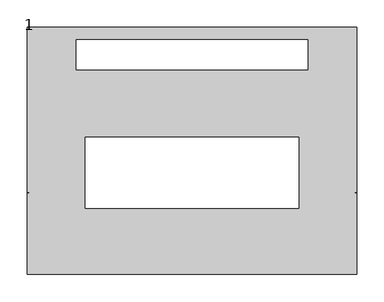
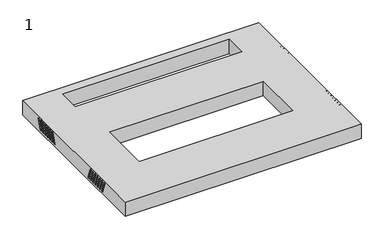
"""IFC4 building model written with IfcOpenShell, lengths in millimetres: proxy geometry, 1."""

from ifc_helpers import new_model, si_unit, frame, origin, place, context, project, spatial, polyline, circle_curve, source, transform, mapped, element, save
from ifc_brep_helpers import plane_surface, revolved_surface, advanced_brep


def proxy_1_876da3fd(model_context):
    return source(origin(), model_context, "Body", "AdvancedBrep", [
        advanced_brep(
        [(298.0, -135.8, 610.7479679), (298.0, -126.9074763, 586.3159597), (298.0, -123.1487058, 587.6840403), (298.0, -132.0412295, 612.1160484), (298.0, -125.8, 610.7479679), (298.0, -116.9074763, 586.3159597), (298.0, -113.1487058, 587.6840403), (298.0, -122.0412295, 612.1160484), (298.0, -115.8, 610.7479679), (298.0, -106.9074763, 586.3159597), (298.0, -103.1487058, 587.6840403), (298.0, -112.0412295, 612.1160484), (298.0, -105.8, 610.7479679), (298.0, -96.9074763, 586.3159597), (298.0, -93.1487058, 587.6840403), (298.0, -102.0412295, 612.1160484), (298.0, -95.8, 610.7479679), (298.0, -86.9074763, 586.3159597), (298.0, -83.1487058, 587.6840403), (298.0, -92.0412295, 612.1160484), (298.0, -85.8, 610.7479679), (298.0, -76.9074763, 586.3159597), (298.0, -73.1487058, 587.6840403), (298.0, -82.0412295, 612.1160484), (298.0, -75.8, 610.7479679), (298.0, -66.9074763, 586.3159597), (298.0, -63.1487058, 587.6840403), (298.0, -72.0412295, 612.1160484), (300.0, -132.0412295, 612.1160484), (300.0, -135.8, 610.7479679), (300.0, -123.1487058, 587.6840403), (300.0, -126.9074763, 586.3159597), (300.0, -122.0412295, 612.1160484), (300.0, -125.8, 610.7479679), (300.0, -113.1487058, 587.6840403), (300.0, -116.9074763, 586.3159597), (300.0, -112.0412295, 612.1160484), (300.0, -115.8, 610.7479679), (300.0, -103.1487058, 587.6840403), (300.0, -106.9074763, 586.3159597), (300.0, -102.0412295, 612.1160484), (300.0, -105.8, 610.7479679), (300.0, -93.1487058, 587.6840403), (300.0, -96.9074763, 586.3159597), (300.0, -92.0412295, 612.1160484), (300.0, -95.8, 610.7479679), (300.0, -83.1487058, 587.6840403), (300.0, -86.9074763, 586.3159597), (300.0, -82.0412295, 612.1160484), (300.0, -85.8, 610.7479679), (300.0, -73.1487058, 587.6840403), (300.0, -76.9074763, 586.3159597), (300.0, -72.0412295, 612.1160484), (300.0, -75.8, 610.7479679), (300.0, -63.1487058, 587.6840403), (300.0, -66.9074763, 586.3159597), (300.0, 225.0, 579.0), (300.0, -225.0, 579.0), (-300.0, -225.0, 579.0), (-300.0, 225.0, 579.0), (-211.0, 147.5, 579.0), (211.0, 147.5, 579.0), (211.0, 202.5, 579.0), (-211.0, 202.5, 579.0), (195.0, 25.0, 579.0), (-195.0, 25.0, 579.0), (-195.0, -105.0, 579.0), (195.0, -105.0, 579.0), (300.0, 225.0, 617.0), (-300.0, 225.0, 617.0), (-300.0, -225.0, 617.0), (300.0, -225.0, 617.0), (-211.0, 147.5, 617.0), (-211.0, 202.5, 617.0), (211.0, 202.5, 617.0), (211.0, 147.5, 617.0), (195.0, 25.0, 617.0), (195.0, -105.0, 617.0), (-195.0, -105.0, 617.0), (-195.0, 25.0, 617.0), (-300.0, -66.9074763, 586.3159597), (-300.0, -63.1487058, 587.6840403), (-300.0, -72.0412295, 612.1160484), (-300.0, -75.8, 610.7479679), (-300.0, -76.9074763, 586.3159597), (-300.0, -73.1487058, 587.6840403), (-300.0, -82.0412295, 612.1160484), (-300.0, -85.8, 610.7479679), (-300.0, -86.9074763, 586.3159597), (-300.0, -83.1487058, 587.6840403), (-300.0, -92.0412295, 612.1160484), (-300.0, -95.8, 610.7479679), (-300.0, -96.9074763, 586.3159597), (-300.0, -93.1487058, 587.6840403), (-300.0, -102.0412295, 612.1160484), (-300.0, -105.8, 610.7479679), (-300.0, -106.9074763, 586.3159597), (-300.0, -103.1487058, 587.6840403), (-300.0, -112.0412295, 612.1160484), (-300.0, -115.8, 610.7479679), (-300.0, -116.9074763, 586.3159597), (-300.0, -113.1487058, 587.6840403), (-300.0, -122.0412295, 612.1160484), (-300.0, -125.8, 610.7479679), (-300.0, -126.9074763, 586.3159597), (-300.0, -123.1487058, 587.6840403), (-300.0, -132.0412295, 612.1160484), (-300.0, -135.8, 610.7479679), (-300.0, 96.0, 610.7479679), (-300.0, 92.2412295, 612.1160484), (-300.0, 83.3487058, 587.6840403), (-300.0, 87.1074763, 586.3159597), (-300.0, 106.0, 610.7479679), (-300.0, 102.2412295, 612.1160484), (-300.0, 93.3487058, 587.6840403), (-300.0, 97.1074763, 586.3159597), (-300.0, 116.0, 610.7479679), (-300.0, 112.2412295, 612.1160484), (-300.0, 103.3487058, 587.6840403), (-300.0, 107.1074763, 586.3159597), (-300.0, 126.0, 610.7479679), (-300.0, 122.2412295, 612.1160484), (-300.0, 113.3487058, 587.6840403), (-300.0, 117.1074763, 586.3159597), (-300.0, 136.0, 610.7479679), (-300.0, 132.2412295, 612.1160484), (-300.0, 123.3487058, 587.6840403), (-300.0, 127.1074763, 586.3159597), (-300.0, 146.0, 610.7479679), (-300.0, 142.2412295, 612.1160484), (-300.0, 133.3487058, 587.6840403), (-300.0, 137.1074763, 586.3159597), (-300.0, 156.0, 610.7479679), (-300.0, 152.2412295, 612.1160484), (-300.0, 143.3487058, 587.6840403), (-300.0, 147.1074763, 586.3159597), (300.0, 152.2412295, 612.1160484), (300.0, 156.0, 610.7479679), (300.0, 147.1074763, 586.3159597), (300.0, 143.3487058, 587.6840403), (300.0, 142.2412295, 612.1160484), (300.0, 146.0, 610.7479679), (300.0, 137.1074763, 586.3159597), (300.0, 133.3487058, 587.6840403), (300.0, 132.2412295, 612.1160484), (300.0, 136.0, 610.7479679), (300.0, 127.1074763, 586.3159597), (300.0, 123.3487058, 587.6840403), (300.0, 122.2412295, 612.1160484), (300.0, 126.0, 610.7479679), (300.0, 117.1074763, 586.3159597), (300.0, 113.3487058, 587.6840403), (300.0, 112.2412295, 612.1160484), (300.0, 116.0, 610.7479679), (300.0, 107.1074763, 586.3159597), (300.0, 103.3487058, 587.6840403), (300.0, 102.2412295, 612.1160484), (300.0, 106.0, 610.7479679), (300.0, 97.1074763, 586.3159597), (300.0, 93.3487058, 587.6840403), (300.0, 92.2412295, 612.1160484), (300.0, 96.0, 610.7479679), (300.0, 87.1074763, 586.3159597), (300.0, 83.3487058, 587.6840403), (298.0, 156.0, 610.7479679), (298.0, 152.2412295, 612.1160484), (298.0, 143.3487058, 587.6840403), (298.0, 147.1074763, 586.3159597), (298.0, 146.0, 610.7479679), (298.0, 142.2412295, 612.1160484), (298.0, 133.3487058, 587.6840403), (298.0, 137.1074763, 586.3159597), (298.0, 136.0, 610.7479679), (298.0, 132.2412295, 612.1160484), (298.0, 123.3487058, 587.6840403), (298.0, 127.1074763, 586.3159597), (298.0, 126.0, 610.7479679), (298.0, 122.2412295, 612.1160484), (298.0, 113.3487058, 587.6840403), (298.0, 117.1074763, 586.3159597), (298.0, 116.0, 610.7479679), (298.0, 112.2412295, 612.1160484), (298.0, 103.3487058, 587.6840403), (298.0, 107.1074763, 586.3159597), (298.0, 106.0, 610.7479679), (298.0, 102.2412295, 612.1160484), (298.0, 93.3487058, 587.6840403), (298.0, 97.1074763, 586.3159597), (298.0, 96.0, 610.7479679), (298.0, 92.2412295, 612.1160484), (298.0, 83.3487058, 587.6840403), (298.0, 87.1074763, 586.3159597), (-298.0, -63.1487058, 587.6840403), (-298.0, -66.9074763, 586.3159597), (-298.0, -75.8, 610.7479679), (-298.0, -72.0412295, 612.1160484), (-298.0, -73.1487058, 587.6840403), (-298.0, -76.9074763, 586.3159597), (-298.0, -85.8, 610.7479679), (-298.0, -82.0412295, 612.1160484), (-298.0, -83.1487058, 587.6840403), (-298.0, -86.9074763, 586.3159597), (-298.0, -95.8, 610.7479679), (-298.0, -92.0412295, 612.1160484), (-298.0, -93.1487058, 587.6840403), (-298.0, -96.9074763, 586.3159597), (-298.0, -105.8, 610.7479679), (-298.0, -102.0412295, 612.1160484), (-298.0, -103.1487058, 587.6840403), (-298.0, -106.9074763, 586.3159597), (-298.0, -115.8, 610.7479679), (-298.0, -112.0412295, 612.1160484), (-298.0, -113.1487058, 587.6840403), (-298.0, -116.9074763, 586.3159597), (-298.0, -125.8, 610.7479679), (-298.0, -122.0412295, 612.1160484), (-298.0, -123.1487058, 587.6840403), (-298.0, -126.9074763, 586.3159597), (-298.0, -135.8, 610.7479679), (-298.0, -132.0412295, 612.1160484), (-298.0, 92.2412295, 612.1160484), (-298.0, 96.0, 610.7479679), (-298.0, 87.1074763, 586.3159597), (-298.0, 83.3487058, 587.6840403), (-298.0, 102.2412295, 612.1160484), (-298.0, 106.0, 610.7479679), (-298.0, 97.1074763, 586.3159597), (-298.0, 93.3487058, 587.6840403), (-298.0, 112.2412295, 612.1160484), (-298.0, 116.0, 610.7479679), (-298.0, 107.1074763, 586.3159597), (-298.0, 103.3487058, 587.6840403), (-298.0, 122.2412295, 612.1160484), (-298.0, 126.0, 610.7479679), (-298.0, 117.1074763, 586.3159597), (-298.0, 113.3487058, 587.6840403), (-298.0, 132.2412295, 612.1160484), (-298.0, 136.0, 610.7479679), (-298.0, 127.1074763, 586.3159597), (-298.0, 123.3487058, 587.6840403), (-298.0, 142.2412295, 612.1160484), (-298.0, 146.0, 610.7479679), (-298.0, 137.1074763, 586.3159597), (-298.0, 133.3487058, 587.6840403), (-298.0, 152.2412295, 612.1160484), (-298.0, 156.0, 610.7479679), (-298.0, 147.1074763, 586.3159597), (-298.0, 143.3487058, 587.6840403)],
        [
            (0, 1),
            (1, 2, circle_curve(frame((298.0, -125.028091, 587.0), z_axis=(1.0, 0.0, 0.0), x_axis=(0.0, -1.0, 0.0)), 2.0)),
            (2, 3),
            (3, 0, circle_curve(frame((298.0, -133.9206148, 611.4320081), z_axis=(1.0, 0.0, 0.0), x_axis=(0.0, -1.0, 0.0)), 2.0)),
            (4, 5),
            (5, 6, circle_curve(frame((298.0, -115.028091, 587.0), z_axis=(1.0, 0.0, 0.0), x_axis=(0.0, -1.0, 0.0)), 2.0)),
            (6, 7),
            (7, 4, circle_curve(frame((298.0, -123.9206148, 611.4320081), z_axis=(1.0, 0.0, 0.0), x_axis=(0.0, -1.0, 0.0)), 2.0)),
            (8, 9),
            (9, 10, circle_curve(frame((298.0, -105.028091, 587.0), z_axis=(1.0, 0.0, 0.0), x_axis=(0.0, -1.0, 0.0)), 2.0)),
            (10, 11),
            (11, 8, circle_curve(frame((298.0, -113.9206148, 611.4320081), z_axis=(1.0, 0.0, 0.0), x_axis=(0.0, -1.0, 0.0)), 2.0)),
            (12, 13),
            (13, 14, circle_curve(frame((298.0, -95.028091, 587.0), z_axis=(1.0, 0.0, 0.0), x_axis=(0.0, -1.0, 0.0)), 2.0)),
            (14, 15),
            (15, 12, circle_curve(frame((298.0, -103.9206148, 611.4320081), z_axis=(1.0, 0.0, 0.0), x_axis=(0.0, -1.0, 0.0)), 2.0)),
            (16, 17),
            (17, 18, circle_curve(frame((298.0, -85.028091, 587.0), z_axis=(1.0, 0.0, 0.0), x_axis=(0.0, -1.0, 0.0)), 2.0)),
            (18, 19),
            (19, 16, circle_curve(frame((298.0, -93.9206148, 611.4320081), z_axis=(1.0, 0.0, 0.0), x_axis=(0.0, -1.0, 0.0)), 2.0)),
            (20, 21),
            (21, 22, circle_curve(frame((298.0, -75.028091, 587.0), z_axis=(1.0, 0.0, 0.0), x_axis=(0.0, -1.0, 0.0)), 2.0)),
            (22, 23),
            (23, 20, circle_curve(frame((298.0, -83.9206148, 611.4320081), z_axis=(1.0, 0.0, 0.0), x_axis=(0.0, -1.0, 0.0)), 2.0)),
            (24, 25),
            (25, 26, circle_curve(frame((298.0, -65.028091, 587.0), z_axis=(1.0, 0.0, 0.0), x_axis=(0.0, -1.0, 0.0)), 2.0)),
            (26, 27),
            (27, 24, circle_curve(frame((298.0, -73.9206148, 611.4320081), z_axis=(1.0, 0.0, 0.0), x_axis=(0.0, -1.0, 0.0)), 2.0)),
            (3, 28),
            (28, 29, circle_curve(frame((300.0, -133.9206148, 611.4320081), z_axis=(1.0, 0.0, 0.0), x_axis=(0.0, -1.0, 0.0)), 2.0)),
            (29, 0),
            (2, 30),
            (30, 28),
            (1, 31),
            (31, 30, circle_curve(frame((300.0, -125.028091, 587.0), z_axis=(1.0, 0.0, 0.0), x_axis=(0.0, -1.0, 0.0)), 2.0)),
            (29, 31),
            (7, 32),
            (32, 33, circle_curve(frame((300.0, -123.9206148, 611.4320081), z_axis=(1.0, 0.0, 0.0), x_axis=(0.0, -1.0, 0.0)), 2.0)),
            (33, 4),
            (6, 34),
            (34, 32),
            (5, 35),
            (35, 34, circle_curve(frame((300.0, -115.028091, 587.0), z_axis=(1.0, 0.0, 0.0), x_axis=(0.0, -1.0, 0.0)), 2.0)),
            (33, 35),
            (11, 36),
            (36, 37, circle_curve(frame((300.0, -113.9206148, 611.4320081), z_axis=(1.0, 0.0, 0.0), x_axis=(0.0, -1.0, 0.0)), 2.0)),
            (37, 8),
            (10, 38),
            (38, 36),
            (9, 39),
            (39, 38, circle_curve(frame((300.0, -105.028091, 587.0), z_axis=(1.0, 0.0, 0.0), x_axis=(0.0, -1.0, 0.0)), 2.0)),
            (37, 39),
            (15, 40),
            (40, 41, circle_curve(frame((300.0, -103.9206148, 611.4320081), z_axis=(1.0, 0.0, 0.0), x_axis=(0.0, -1.0, 0.0)), 2.0)),
            (41, 12),
            (14, 42),
            (42, 40),
            (13, 43),
            (43, 42, circle_curve(frame((300.0, -95.028091, 587.0), z_axis=(1.0, 0.0, 0.0), x_axis=(0.0, -1.0, 0.0)), 2.0)),
            (41, 43),
            (19, 44),
            (44, 45, circle_curve(frame((300.0, -93.9206148, 611.4320081), z_axis=(1.0, 0.0, 0.0), x_axis=(0.0, -1.0, 0.0)), 2.0)),
            (45, 16),
            (18, 46),
            (46, 44),
            (17, 47),
            (47, 46, circle_curve(frame((300.0, -85.028091, 587.0), z_axis=(1.0, 0.0, 0.0), x_axis=(0.0, -1.0, 0.0)), 2.0)),
            (45, 47),
            (23, 48),
            (48, 49, circle_curve(frame((300.0, -83.9206148, 611.4320081), z_axis=(1.0, 0.0, 0.0), x_axis=(0.0, -1.0, 0.0)), 2.0)),
            (49, 20),
            (22, 50),
            (50, 48),
            (21, 51),
            (51, 50, circle_curve(frame((300.0, -75.028091, 587.0), z_axis=(1.0, 0.0, 0.0), x_axis=(0.0, -1.0, 0.0)), 2.0)),
            (49, 51),
            (27, 52),
            (52, 53, circle_curve(frame((300.0, -73.9206148, 611.4320081), z_axis=(1.0, 0.0, 0.0), x_axis=(0.0, -1.0, 0.0)), 2.0)),
            (53, 24),
            (26, 54),
            (54, 52),
            (25, 55),
            (55, 54, circle_curve(frame((300.0, -65.028091, 587.0), z_axis=(1.0, 0.0, 0.0), x_axis=(0.0, -1.0, 0.0)), 2.0)),
            (53, 55),
            (56, 57),
            (57, 58),
            (58, 59),
            (59, 56),
            (60, 61),
            (61, 62),
            (62, 63),
            (63, 60),
            (64, 65),
            (65, 66),
            (66, 67),
            (67, 64),
            (68, 69),
            (69, 70),
            (70, 71),
            (71, 68),
            (72, 73),
            (73, 74),
            (74, 75),
            (75, 72),
            (76, 77),
            (77, 78),
            (78, 79),
            (79, 76),
            (59, 69),
            (68, 56),
            (58, 70),
            (80, 81, circle_curve(frame((-300.0, -65.028091, 587.0), z_axis=(1.0, 0.0, 0.0), x_axis=(0.0, 1.0, 0.0)), 2.0)),
            (81, 82),
            (82, 83, circle_curve(frame((-300.0, -73.9206148, 611.4320081), z_axis=(1.0, 0.0, 0.0), x_axis=(0.0, 1.0, 0.0)), 2.0)),
            (83, 80),
            (84, 85, circle_curve(frame((-300.0, -75.028091, 587.0), z_axis=(1.0, 0.0, 0.0), x_axis=(0.0, 1.0, 0.0)), 2.0)),
            (85, 86),
            (86, 87, circle_curve(frame((-300.0, -83.9206148, 611.4320081), z_axis=(1.0, 0.0, 0.0), x_axis=(0.0, 1.0, 0.0)), 2.0)),
            (87, 84),
            (88, 89, circle_curve(frame((-300.0, -85.028091, 587.0), z_axis=(1.0, 0.0, 0.0), x_axis=(0.0, 1.0, 0.0)), 2.0)),
            (89, 90),
            (90, 91, circle_curve(frame((-300.0, -93.9206148, 611.4320081), z_axis=(1.0, 0.0, 0.0), x_axis=(0.0, 1.0, 0.0)), 2.0)),
            (91, 88),
            (92, 93, circle_curve(frame((-300.0, -95.028091, 587.0), z_axis=(1.0, 0.0, 0.0), x_axis=(0.0, 1.0, 0.0)), 2.0)),
            (93, 94),
            (94, 95, circle_curve(frame((-300.0, -103.9206148, 611.4320081), z_axis=(1.0, 0.0, 0.0), x_axis=(0.0, 1.0, 0.0)), 2.0)),
            (95, 92),
            (96, 97, circle_curve(frame((-300.0, -105.028091, 587.0), z_axis=(1.0, 0.0, 0.0), x_axis=(0.0, 1.0, 0.0)), 2.0)),
            (97, 98),
            (98, 99, circle_curve(frame((-300.0, -113.9206148, 611.4320081), z_axis=(1.0, 0.0, 0.0), x_axis=(0.0, 1.0, 0.0)), 2.0)),
            (99, 96),
            (100, 101, circle_curve(frame((-300.0, -115.028091, 587.0), z_axis=(1.0, 0.0, 0.0), x_axis=(0.0, 1.0, 0.0)), 2.0)),
            (101, 102),
            (102, 103, circle_curve(frame((-300.0, -123.9206148, 611.4320081), z_axis=(1.0, 0.0, 0.0), x_axis=(0.0, 1.0, 0.0)), 2.0)),
            (103, 100),
            (104, 105, circle_curve(frame((-300.0, -125.028091, 587.0), z_axis=(1.0, 0.0, 0.0), x_axis=(0.0, 1.0, 0.0)), 2.0)),
            (105, 106),
            (106, 107, circle_curve(frame((-300.0, -133.9206148, 611.4320081), z_axis=(1.0, 0.0, 0.0), x_axis=(0.0, 1.0, 0.0)), 2.0)),
            (107, 104),
            (108, 109, circle_curve(frame((-300.0, 94.1206148, 611.4320081), z_axis=(1.0, 0.0, 0.0), x_axis=(0.0, 1.0, 0.0)), 2.0)),
            (109, 110),
            (110, 111, circle_curve(frame((-300.0, 85.228091, 587.0), z_axis=(1.0, 0.0, 0.0), x_axis=(0.0, 1.0, 0.0)), 2.0)),
            (111, 108),
            (112, 113, circle_curve(frame((-300.0, 104.1206148, 611.4320081), z_axis=(1.0, 0.0, 0.0), x_axis=(0.0, 1.0, 0.0)), 2.0)),
            (113, 114),
            (114, 115, circle_curve(frame((-300.0, 95.228091, 587.0), z_axis=(1.0, 0.0, 0.0), x_axis=(0.0, 1.0, 0.0)), 2.0)),
            (115, 112),
            (116, 117, circle_curve(frame((-300.0, 114.1206148, 611.4320081), z_axis=(1.0, 0.0, 0.0), x_axis=(0.0, 1.0, 0.0)), 2.0)),
            (117, 118),
            (118, 119, circle_curve(frame((-300.0, 105.228091, 587.0), z_axis=(1.0, 0.0, 0.0), x_axis=(0.0, 1.0, 0.0)), 2.0)),
            (119, 116),
            (120, 121, circle_curve(frame((-300.0, 124.1206148, 611.4320081), z_axis=(1.0, 0.0, 0.0), x_axis=(0.0, 1.0, 0.0)), 2.0)),
            (121, 122),
            (122, 123, circle_curve(frame((-300.0, 115.228091, 587.0), z_axis=(1.0, 0.0, 0.0), x_axis=(0.0, 1.0, 0.0)), 2.0)),
            (123, 120),
            (124, 125, circle_curve(frame((-300.0, 134.1206148, 611.4320081), z_axis=(1.0, 0.0, 0.0), x_axis=(0.0, 1.0, 0.0)), 2.0)),
            (125, 126),
            (126, 127, circle_curve(frame((-300.0, 125.228091, 587.0), z_axis=(1.0, 0.0, 0.0), x_axis=(0.0, 1.0, 0.0)), 2.0)),
            (127, 124),
            (128, 129, circle_curve(frame((-300.0, 144.1206148, 611.4320081), z_axis=(1.0, 0.0, 0.0), x_axis=(0.0, 1.0, 0.0)), 2.0)),
            (129, 130),
            (130, 131, circle_curve(frame((-300.0, 135.228091, 587.0), z_axis=(1.0, 0.0, 0.0), x_axis=(0.0, 1.0, 0.0)), 2.0)),
            (131, 128),
            (132, 133, circle_curve(frame((-300.0, 154.1206148, 611.4320081), z_axis=(1.0, 0.0, 0.0), x_axis=(0.0, 1.0, 0.0)), 2.0)),
            (133, 134),
            (134, 135, circle_curve(frame((-300.0, 145.228091, 587.0), z_axis=(1.0, 0.0, 0.0), x_axis=(0.0, 1.0, 0.0)), 2.0)),
            (135, 132),
            (57, 71),
            (136, 137, circle_curve(frame((300.0, 154.1206148, 611.4320081), z_axis=(-1.0, 0.0, 0.0), x_axis=(0.0, 1.0, 0.0)), 2.0)),
            (137, 138),
            (138, 139, circle_curve(frame((300.0, 145.228091, 587.0), z_axis=(-1.0, 0.0, 0.0), x_axis=(0.0, 1.0, 0.0)), 2.0)),
            (139, 136),
            (140, 141, circle_curve(frame((300.0, 144.1206148, 611.4320081), z_axis=(-1.0, 0.0, 0.0), x_axis=(0.0, 1.0, 0.0)), 2.0)),
            (141, 142),
            (142, 143, circle_curve(frame((300.0, 135.228091, 587.0), z_axis=(-1.0, 0.0, 0.0), x_axis=(0.0, 1.0, 0.0)), 2.0)),
            (143, 140),
            (144, 145, circle_curve(frame((300.0, 134.1206148, 611.4320081), z_axis=(-1.0, 0.0, 0.0), x_axis=(0.0, 1.0, 0.0)), 2.0)),
            (145, 146),
            (146, 147, circle_curve(frame((300.0, 125.228091, 587.0), z_axis=(-1.0, 0.0, 0.0), x_axis=(0.0, 1.0, 0.0)), 2.0)),
            (147, 144),
            (148, 149, circle_curve(frame((300.0, 124.1206148, 611.4320081), z_axis=(-1.0, 0.0, 0.0), x_axis=(0.0, 1.0, 0.0)), 2.0)),
            (149, 150),
            (150, 151, circle_curve(frame((300.0, 115.228091, 587.0), z_axis=(-1.0, 0.0, 0.0), x_axis=(0.0, 1.0, 0.0)), 2.0)),
            (151, 148),
            (152, 153, circle_curve(frame((300.0, 114.1206148, 611.4320081), z_axis=(-1.0, 0.0, 0.0), x_axis=(0.0, 1.0, 0.0)), 2.0)),
            (153, 154),
            (154, 155, circle_curve(frame((300.0, 105.228091, 587.0), z_axis=(-1.0, 0.0, 0.0), x_axis=(0.0, 1.0, 0.0)), 2.0)),
            (155, 152),
            (156, 157, circle_curve(frame((300.0, 104.1206148, 611.4320081), z_axis=(-1.0, 0.0, 0.0), x_axis=(0.0, 1.0, 0.0)), 2.0)),
            (157, 158),
            (158, 159, circle_curve(frame((300.0, 95.228091, 587.0), z_axis=(-1.0, 0.0, 0.0), x_axis=(0.0, 1.0, 0.0)), 2.0)),
            (159, 156),
            (160, 161, circle_curve(frame((300.0, 94.1206148, 611.4320081), z_axis=(-1.0, 0.0, 0.0), x_axis=(0.0, 1.0, 0.0)), 2.0)),
            (161, 162),
            (162, 163, circle_curve(frame((300.0, 85.228091, 587.0), z_axis=(-1.0, 0.0, 0.0), x_axis=(0.0, 1.0, 0.0)), 2.0)),
            (163, 160),
            (63, 73),
            (72, 60),
            (62, 74),
            (61, 75),
            (67, 77),
            (76, 64),
            (66, 78),
            (65, 79),
            (164, 165, circle_curve(frame((298.0, 154.1206148, 611.4320081), z_axis=(1.0, 0.0, 0.0), x_axis=(0.0, 1.0, 0.0)), 2.0)),
            (165, 166),
            (166, 167, circle_curve(frame((298.0, 145.228091, 587.0), z_axis=(1.0, 0.0, 0.0), x_axis=(0.0, 1.0, 0.0)), 2.0)),
            (167, 164),
            (168, 169, circle_curve(frame((298.0, 144.1206148, 611.4320081), z_axis=(1.0, 0.0, 0.0), x_axis=(0.0, 1.0, 0.0)), 2.0)),
            (169, 170),
            (170, 171, circle_curve(frame((298.0, 135.228091, 587.0), z_axis=(1.0, 0.0, 0.0), x_axis=(0.0, 1.0, 0.0)), 2.0)),
            (171, 168),
            (172, 173, circle_curve(frame((298.0, 134.1206148, 611.4320081), z_axis=(1.0, 0.0, 0.0), x_axis=(0.0, 1.0, 0.0)), 2.0)),
            (173, 174),
            (174, 175, circle_curve(frame((298.0, 125.228091, 587.0), z_axis=(1.0, 0.0, 0.0), x_axis=(0.0, 1.0, 0.0)), 2.0)),
            (175, 172),
            (176, 177, circle_curve(frame((298.0, 124.1206148, 611.4320081), z_axis=(1.0, 0.0, 0.0), x_axis=(0.0, 1.0, 0.0)), 2.0)),
            (177, 178),
            (178, 179, circle_curve(frame((298.0, 115.228091, 587.0), z_axis=(1.0, 0.0, 0.0), x_axis=(0.0, 1.0, 0.0)), 2.0)),
            (179, 176),
            (180, 181, circle_curve(frame((298.0, 114.1206148, 611.4320081), z_axis=(1.0, 0.0, 0.0), x_axis=(0.0, 1.0, 0.0)), 2.0)),
            (181, 182),
            (182, 183, circle_curve(frame((298.0, 105.228091, 587.0), z_axis=(1.0, 0.0, 0.0), x_axis=(0.0, 1.0, 0.0)), 2.0)),
            (183, 180),
            (184, 185, circle_curve(frame((298.0, 104.1206148, 611.4320081), z_axis=(1.0, 0.0, 0.0), x_axis=(0.0, 1.0, 0.0)), 2.0)),
            (185, 186),
            (186, 187, circle_curve(frame((298.0, 95.228091, 587.0), z_axis=(1.0, 0.0, 0.0), x_axis=(0.0, 1.0, 0.0)), 2.0)),
            (187, 184),
            (188, 189, circle_curve(frame((298.0, 94.1206148, 611.4320081), z_axis=(1.0, 0.0, 0.0), x_axis=(0.0, 1.0, 0.0)), 2.0)),
            (189, 190),
            (190, 191, circle_curve(frame((298.0, 85.228091, 587.0), z_axis=(1.0, 0.0, 0.0), x_axis=(0.0, 1.0, 0.0)), 2.0)),
            (191, 188),
            (164, 137),
            (136, 165),
            (139, 166),
            (138, 167),
            (168, 141),
            (140, 169),
            (143, 170),
            (142, 171),
            (172, 145),
            (144, 173),
            (147, 174),
            (146, 175),
            (176, 149),
            (148, 177),
            (151, 178),
            (150, 179),
            (180, 153),
            (152, 181),
            (155, 182),
            (154, 183),
            (184, 157),
            (156, 185),
            (159, 186),
            (158, 187),
            (188, 161),
            (160, 189),
            (163, 190),
            (162, 191),
            (192, 193, circle_curve(frame((-298.0, -65.028091, 587.0), z_axis=(-1.0, 0.0, 0.0), x_axis=(0.0, 1.0, 0.0)), 2.0)),
            (193, 194),
            (194, 195, circle_curve(frame((-298.0, -73.9206148, 611.4320081), z_axis=(-1.0, 0.0, 0.0), x_axis=(0.0, 1.0, 0.0)), 2.0)),
            (195, 192),
            (196, 197, circle_curve(frame((-298.0, -75.028091, 587.0), z_axis=(-1.0, 0.0, 0.0), x_axis=(0.0, 1.0, 0.0)), 2.0)),
            (197, 198),
            (198, 199, circle_curve(frame((-298.0, -83.9206148, 611.4320081), z_axis=(-1.0, 0.0, 0.0), x_axis=(0.0, 1.0, 0.0)), 2.0)),
            (199, 196),
            (200, 201, circle_curve(frame((-298.0, -85.028091, 587.0), z_axis=(-1.0, 0.0, 0.0), x_axis=(0.0, 1.0, 0.0)), 2.0)),
            (201, 202),
            (202, 203, circle_curve(frame((-298.0, -93.9206148, 611.4320081), z_axis=(-1.0, 0.0, 0.0), x_axis=(0.0, 1.0, 0.0)), 2.0)),
            (203, 200),
            (204, 205, circle_curve(frame((-298.0, -95.028091, 587.0), z_axis=(-1.0, 0.0, 0.0), x_axis=(0.0, 1.0, 0.0)), 2.0)),
            (205, 206),
            (206, 207, circle_curve(frame((-298.0, -103.9206148, 611.4320081), z_axis=(-1.0, 0.0, 0.0), x_axis=(0.0, 1.0, 0.0)), 2.0)),
            (207, 204),
            (208, 209, circle_curve(frame((-298.0, -105.028091, 587.0), z_axis=(-1.0, 0.0, 0.0), x_axis=(0.0, 1.0, 0.0)), 2.0)),
            (209, 210),
            (210, 211, circle_curve(frame((-298.0, -113.9206148, 611.4320081), z_axis=(-1.0, 0.0, 0.0), x_axis=(0.0, 1.0, 0.0)), 2.0)),
            (211, 208),
            (212, 213, circle_curve(frame((-298.0, -115.028091, 587.0), z_axis=(-1.0, 0.0, 0.0), x_axis=(0.0, 1.0, 0.0)), 2.0)),
            (213, 214),
            (214, 215, circle_curve(frame((-298.0, -123.9206148, 611.4320081), z_axis=(-1.0, 0.0, 0.0), x_axis=(0.0, 1.0, 0.0)), 2.0)),
            (215, 212),
            (216, 217, circle_curve(frame((-298.0, -125.028091, 587.0), z_axis=(-1.0, 0.0, 0.0), x_axis=(0.0, 1.0, 0.0)), 2.0)),
            (217, 218),
            (218, 219, circle_curve(frame((-298.0, -133.9206148, 611.4320081), z_axis=(-1.0, 0.0, 0.0), x_axis=(0.0, 1.0, 0.0)), 2.0)),
            (219, 216),
            (192, 81),
            (80, 193),
            (83, 194),
            (82, 195),
            (196, 85),
            (84, 197),
            (87, 198),
            (86, 199),
            (200, 89),
            (88, 201),
            (91, 202),
            (90, 203),
            (204, 93),
            (92, 205),
            (95, 206),
            (94, 207),
            (208, 97),
            (96, 209),
            (99, 210),
            (98, 211),
            (212, 101),
            (100, 213),
            (103, 214),
            (102, 215),
            (216, 105),
            (104, 217),
            (107, 218),
            (106, 219),
            (220, 221, circle_curve(frame((-298.0, 94.1206148, 611.4320081), z_axis=(-1.0, 0.0, 0.0), x_axis=(0.0, 1.0, 0.0)), 2.0)),
            (221, 222),
            (222, 223, circle_curve(frame((-298.0, 85.228091, 587.0), z_axis=(-1.0, 0.0, 0.0), x_axis=(0.0, 1.0, 0.0)), 2.0)),
            (223, 220),
            (224, 225, circle_curve(frame((-298.0, 104.1206148, 611.4320081), z_axis=(-1.0, 0.0, 0.0), x_axis=(0.0, 1.0, 0.0)), 2.0)),
            (225, 226),
            (226, 227, circle_curve(frame((-298.0, 95.228091, 587.0), z_axis=(-1.0, 0.0, 0.0), x_axis=(0.0, 1.0, 0.0)), 2.0)),
            (227, 224),
            (228, 229, circle_curve(frame((-298.0, 114.1206148, 611.4320081), z_axis=(-1.0, 0.0, 0.0), x_axis=(0.0, 1.0, 0.0)), 2.0)),
            (229, 230),
            (230, 231, circle_curve(frame((-298.0, 105.228091, 587.0), z_axis=(-1.0, 0.0, 0.0), x_axis=(0.0, 1.0, 0.0)), 2.0)),
            (231, 228),
            (232, 233, circle_curve(frame((-298.0, 124.1206148, 611.4320081), z_axis=(-1.0, 0.0, 0.0), x_axis=(0.0, 1.0, 0.0)), 2.0)),
            (233, 234),
            (234, 235, circle_curve(frame((-298.0, 115.228091, 587.0), z_axis=(-1.0, 0.0, 0.0), x_axis=(0.0, 1.0, 0.0)), 2.0)),
            (235, 232),
            (236, 237, circle_curve(frame((-298.0, 134.1206148, 611.4320081), z_axis=(-1.0, 0.0, 0.0), x_axis=(0.0, 1.0, 0.0)), 2.0)),
            (237, 238),
            (238, 239, circle_curve(frame((-298.0, 125.228091, 587.0), z_axis=(-1.0, 0.0, 0.0), x_axis=(0.0, 1.0, 0.0)), 2.0)),
            (239, 236),
            (240, 241, circle_curve(frame((-298.0, 144.1206148, 611.4320081), z_axis=(-1.0, 0.0, 0.0), x_axis=(0.0, 1.0, 0.0)), 2.0)),
            (241, 242),
            (242, 243, circle_curve(frame((-298.0, 135.228091, 587.0), z_axis=(-1.0, 0.0, 0.0), x_axis=(0.0, 1.0, 0.0)), 2.0)),
            (243, 240),
            (244, 245, circle_curve(frame((-298.0, 154.1206148, 611.4320081), z_axis=(-1.0, 0.0, 0.0), x_axis=(0.0, 1.0, 0.0)), 2.0)),
            (245, 246),
            (246, 247, circle_curve(frame((-298.0, 145.228091, 587.0), z_axis=(-1.0, 0.0, 0.0), x_axis=(0.0, 1.0, 0.0)), 2.0)),
            (247, 244),
            (220, 109),
            (108, 221),
            (111, 222),
            (110, 223),
            (224, 113),
            (112, 225),
            (115, 226),
            (114, 227),
            (228, 117),
            (116, 229),
            (119, 230),
            (118, 231),
            (232, 121),
            (120, 233),
            (123, 234),
            (122, 235),
            (236, 125),
            (124, 237),
            (127, 238),
            (126, 239),
            (240, 129),
            (128, 241),
            (131, 242),
            (130, 243),
            (244, 133),
            (132, 245),
            (135, 246),
            (134, 247),
        ],
        [
            plane_surface(frame((298.0, -126.9074763, 586.3159597), z_axis=(1.0, 0.0, 0.0), x_axis=(0.0, -0.3420201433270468, 0.9396926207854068))),
            revolved_surface(polyline([(300.0, -135.9206148, 611.4320081), (298.0, -135.9206148, 611.4320081)]), (298.0, -133.9206148, 611.4320081), (1.0, 0.0, 0.0)),
            plane_surface(frame((300.0, -123.1487058, 587.6840403), z_axis=(0.0, -0.9396926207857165, -0.342020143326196), x_axis=(-1.0, 0.0, 0.0))),
            revolved_surface(polyline([(300.0, -127.028091, 587.0), (298.0, -127.028091, 587.0)]), (298.0, -125.028091, 587.0), (1.0, 0.0, 0.0)),
            plane_surface(frame((300.0, -135.8, 610.7479679), z_axis=(0.0, 0.9396926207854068, 0.3420201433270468), x_axis=(-1.0, 0.0, 0.0))),
            revolved_surface(polyline([(300.0, -125.9206148, 611.4320081), (298.0, -125.9206148, 611.4320081)]), (300.0, -123.9206148, 611.4320081), (1.0, 0.0, 0.0)),
            plane_surface(frame((300.0, -113.1487058, 587.6840403), z_axis=(0.0, -0.9396926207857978, -0.3420201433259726), x_axis=(-1.0, 0.0, 0.0))),
            revolved_surface(polyline([(300.0, -117.028091, 587.0), (298.0, -117.028091, 587.0)]), (300.0, -115.028091, 587.0), (1.0, 0.0, 0.0)),
            plane_surface(frame((300.0, -125.8, 610.7479679), z_axis=(0.0, 0.9396926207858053, 0.34202014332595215), x_axis=(-1.0, 0.0, 0.0))),
            revolved_surface(polyline([(300.0, -115.9206148, 611.4320081), (298.0, -115.9206148, 611.4320081)]), (300.0, -113.9206148, 611.4320081), (1.0, 0.0, 0.0)),
            plane_surface(frame((300.0, -103.1487058, 587.6840403), z_axis=(0.0, -0.9396926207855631, -0.34202014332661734), x_axis=(-1.0, 0.0, 0.0))),
            revolved_surface(polyline([(300.0, -107.028091, 587.0), (298.0, -107.028091, 587.0)]), (300.0, -105.028091, 587.0), (1.0, 0.0, 0.0)),
            plane_surface(frame((300.0, -115.8, 610.7479679), z_axis=(0.0, 0.9396926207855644, 0.34202014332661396), x_axis=(-1.0, 0.0, 0.0))),
            revolved_surface(polyline([(300.0, -105.9206148, 611.4320081), (298.0, -105.9206148, 611.4320081)]), (300.0, -103.9206148, 611.4320081), (1.0, 0.0, 0.0)),
            plane_surface(frame((300.0, -93.1487058, 587.6840403), z_axis=(0.0, -0.9396926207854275, -0.34202014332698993), x_axis=(-1.0, 0.0, 0.0))),
            revolved_surface(polyline([(300.0, -97.028091, 587.0), (298.0, -97.028091, 587.0)]), (300.0, -95.028091, 587.0), (1.0, 0.0, 0.0)),
            plane_surface(frame((300.0, -105.8, 610.7479679), z_axis=(0.0, 0.9396926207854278, 0.34202014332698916), x_axis=(-1.0, 0.0, 0.0))),
            revolved_surface(polyline([(300.0, -95.9206148, 611.4320081), (298.0, -95.9206148, 611.4320081)]), (300.0, -93.9206148, 611.4320081), (1.0, 0.0, 0.0)),
            plane_surface(frame((300.0, -83.1487058, 587.6840403), z_axis=(0.0, -0.9396926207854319, -0.3420201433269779), x_axis=(-1.0, 0.0, 0.0))),
            revolved_surface(polyline([(300.0, -87.028091, 587.0), (298.0, -87.028091, 587.0)]), (300.0, -85.028091, 587.0), (1.0, 0.0, 0.0)),
            plane_surface(frame((300.0, -95.8, 610.7479679), z_axis=(0.0, 0.9396926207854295, 0.3420201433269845), x_axis=(-1.0, 0.0, 0.0))),
            revolved_surface(polyline([(300.0, -85.9206148, 611.4320081), (298.0, -85.9206148, 611.4320081)]), (300.0, -83.9206148, 611.4320081), (1.0, 0.0, 0.0)),
            plane_surface(frame((300.0, -73.1487058, 587.6840403), z_axis=(0.0, -0.9396926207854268, -0.342020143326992), x_axis=(-1.0, 0.0, 0.0))),
            revolved_surface(polyline([(300.0, -77.028091, 587.0), (298.0, -77.028091, 587.0)]), (300.0, -75.028091, 587.0), (1.0, 0.0, 0.0)),
            plane_surface(frame((300.0, -85.8, 610.7479679), z_axis=(0.0, 0.9396926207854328, 0.3420201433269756), x_axis=(-1.0, 0.0, 0.0))),
            revolved_surface(polyline([(300.0, -75.9206148, 611.4320081), (298.0, -75.9206148, 611.4320081)]), (300.0, -73.9206148, 611.4320081), (1.0, 0.0, 0.0)),
            plane_surface(frame((300.0, -63.1487058, 587.6840403), z_axis=(0.0, -0.9396926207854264, -0.3420201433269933), x_axis=(-1.0, 0.0, 0.0))),
            revolved_surface(polyline([(300.0, -67.028091, 587.0), (298.0, -67.028091, 587.0)]), (300.0, -65.028091, 587.0), (1.0, 0.0, 0.0)),
            plane_surface(frame((300.0, -75.8, 610.7479679), z_axis=(0.0, 0.9396926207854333, 0.342020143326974), x_axis=(-1.0, 0.0, 0.0))),
            plane_surface(frame((-300.0, 225.0, 579.0), z_axis=(0.0, 0.0, -1.0), x_axis=(1.0, 0.0, 0.0))),
            plane_surface(frame((-300.0, 225.0, 617.0), z_axis=(0.0, 0.0, 1.0), x_axis=(-1.0, 0.0, 0.0))),
            plane_surface(frame((300.0, 225.0, 617.0), z_axis=(0.0, 1.0, 0.0), x_axis=(0.0, 0.0, -1.0))),
            plane_surface(frame((-300.0, 225.0, 617.0), z_axis=(-1.0, 0.0, 0.0), x_axis=(0.0, 0.0, -1.0))),
            plane_surface(frame((-300.0, -225.0, 617.0), z_axis=(0.0, -1.0, 0.0), x_axis=(0.0, 0.0, -1.0))),
            plane_surface(frame((300.0, -225.0, 617.0), z_axis=(1.0, 0.0, 0.0), x_axis=(0.0, 0.0, -1.0))),
            plane_surface(frame((-211.0, 147.5, 617.0), z_axis=(1.0, 0.0, 0.0), x_axis=(0.0, 0.0, -1.0))),
            plane_surface(frame((-211.0, 202.5, 617.0), z_axis=(0.0, -1.0, 0.0), x_axis=(0.0, 0.0, -1.0))),
            plane_surface(frame((211.0, 202.5, 617.0), z_axis=(-1.0, 0.0, 0.0), x_axis=(0.0, 0.0, -1.0))),
            plane_surface(frame((211.0, 147.5, 617.0), z_axis=(0.0, 1.0, 0.0), x_axis=(0.0, 0.0, -1.0))),
            plane_surface(frame((195.0, 25.0, 617.0), z_axis=(-1.0, 0.0, 0.0), x_axis=(0.0, 0.0, -1.0))),
            plane_surface(frame((195.0, -105.0, 617.0), z_axis=(0.0, 1.0, 0.0), x_axis=(0.0, 0.0, -1.0))),
            plane_surface(frame((-195.0, -105.0, 617.0), z_axis=(1.0, 0.0, 0.0), x_axis=(0.0, 0.0, -1.0))),
            plane_surface(frame((-195.0, 25.0, 617.0), z_axis=(0.0, -1.0, 0.0), x_axis=(0.0, 0.0, -1.0))),
            plane_surface(frame((298.0, 156.1206148, 611.4320081), z_axis=(1.0, 0.0, 0.0), x_axis=(0.0, 0.0, -1.0))),
            revolved_surface(polyline([(300.0, 156.1206148, 611.4320081), (298.0, 156.1206148, 611.4320081)]), (298.0, 154.1206148, 611.4320081), (1.0, 0.0, 0.0)),
            plane_surface(frame((300.0, 152.2412295, 612.1160484), z_axis=(0.0, 0.9396926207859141, -0.34202014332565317), x_axis=(-1.0, 0.0, 0.0))),
            revolved_surface(polyline([(300.0, 147.228091, 587.0), (298.0, 147.228091, 587.0)]), (298.0, 145.228091, 587.0), (1.0, 0.0, 0.0)),
            plane_surface(frame((300.0, 147.1074763, 586.3159597), z_axis=(0.0, -0.9396926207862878, 0.34202014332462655), x_axis=(-1.0, 0.0, 0.0))),
            revolved_surface(polyline([(300.0, 146.1206148, 611.4320081), (298.0, 146.1206148, 611.4320081)]), (300.0, 144.1206148, 611.4320081), (1.0, 0.0, 0.0)),
            plane_surface(frame((300.0, 142.2412295, 612.1160484), z_axis=(0.0, 0.9396926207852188, -0.34202014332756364), x_axis=(-1.0, 0.0, 0.0))),
            revolved_surface(polyline([(300.0, 137.228091, 587.0), (298.0, 137.228091, 587.0)]), (300.0, 135.228091, 587.0), (1.0, 0.0, 0.0)),
            plane_surface(frame((300.0, 137.1074763, 586.3159597), z_axis=(0.0, -0.939692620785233, 0.3420201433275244), x_axis=(-1.0, 0.0, 0.0))),
            revolved_surface(polyline([(300.0, 136.1206148, 611.4320081), (298.0, 136.1206148, 611.4320081)]), (300.0, 134.1206148, 611.4320081), (1.0, 0.0, 0.0)),
            plane_surface(frame((300.0, 132.2412295, 612.1160484), z_axis=(0.0, 0.9396926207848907, -0.3420201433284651), x_axis=(-1.0, 0.0, 0.0))),
            revolved_surface(polyline([(300.0, 127.228091, 587.0), (298.0, 127.228091, 587.0)]), (300.0, 125.228091, 587.0), (1.0, 0.0, 0.0)),
            plane_surface(frame((300.0, 127.1074763, 586.3159597), z_axis=(0.0, -0.9396926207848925, 0.3420201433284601), x_axis=(-1.0, 0.0, 0.0))),
            revolved_surface(polyline([(300.0, 126.1206148, 611.4320081), (298.0, 126.1206148, 611.4320081)]), (300.0, 124.1206148, 611.4320081), (1.0, 0.0, 0.0)),
            plane_surface(frame((300.0, 122.2412295, 612.1160484), z_axis=(0.0, 0.9396926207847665, -0.34202014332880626), x_axis=(-1.0, 0.0, 0.0))),
            revolved_surface(polyline([(300.0, 117.228091, 587.0), (298.0, 117.228091, 587.0)]), (300.0, 115.228091, 587.0), (1.0, 0.0, 0.0)),
            plane_surface(frame((300.0, 117.1074763, 586.3159597), z_axis=(0.0, -0.9396926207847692, 0.34202014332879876), x_axis=(-1.0, 0.0, 0.0))),
            revolved_surface(polyline([(300.0, 116.1206148, 611.4320081), (298.0, 116.1206148, 611.4320081)]), (300.0, 114.1206148, 611.4320081), (1.0, 0.0, 0.0)),
            plane_surface(frame((300.0, 112.2412295, 612.1160484), z_axis=(0.0, 0.9396926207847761, -0.3420201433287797), x_axis=(-1.0, 0.0, 0.0))),
            revolved_surface(polyline([(300.0, 107.228091, 587.0), (298.0, 107.228091, 587.0)]), (300.0, 105.228091, 587.0), (1.0, 0.0, 0.0)),
            plane_surface(frame((300.0, 107.1074763, 586.3159597), z_axis=(0.0, -0.9396926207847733, 0.34202014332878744), x_axis=(-1.0, 0.0, 0.0))),
            revolved_surface(polyline([(300.0, 106.1206148, 611.4320081), (298.0, 106.1206148, 611.4320081)]), (300.0, 104.1206148, 611.4320081), (1.0, 0.0, 0.0)),
            plane_surface(frame((300.0, 102.2412295, 612.1160484), z_axis=(0.0, 0.9396926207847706, -0.34202014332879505), x_axis=(-1.0, 0.0, 0.0))),
            revolved_surface(polyline([(300.0, 97.228091, 587.0), (298.0, 97.228091, 587.0)]), (300.0, 95.228091, 587.0), (1.0, 0.0, 0.0)),
            plane_surface(frame((300.0, 97.1074763, 586.3159597), z_axis=(0.0, -0.9396926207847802, 0.34202014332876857), x_axis=(-1.0, 0.0, 0.0))),
            revolved_surface(polyline([(300.0, 96.1206148, 611.4320081), (298.0, 96.1206148, 611.4320081)]), (300.0, 94.1206148, 611.4320081), (1.0, 0.0, 0.0)),
            plane_surface(frame((300.0, 92.2412295, 612.1160484), z_axis=(0.0, 0.9396926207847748, -0.3420201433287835), x_axis=(-1.0, 0.0, 0.0))),
            revolved_surface(polyline([(300.0, 87.228091, 587.0), (298.0, 87.228091, 587.0)]), (300.0, 85.228091, 587.0), (1.0, 0.0, 0.0)),
            plane_surface(frame((300.0, 87.1074763, 586.3159597), z_axis=(0.0, -0.9396926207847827, 0.3420201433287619), x_axis=(-1.0, 0.0, 0.0))),
            plane_surface(frame((-298.0, -72.0412295, 612.1160484), z_axis=(-1.0000000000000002, 0.0, 0.0), x_axis=(0.0, -0.3420201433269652, 0.9396926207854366))),
            revolved_surface(polyline([(-298.0, -63.028091, 587.0), (-300.0, -63.028091, 587.0)]), (-300.0, -65.028091, 587.0), (1.0, 0.0, 0.0)),
            plane_surface(frame((-298.0, -75.8, 610.7479679), z_axis=(0.0, 0.9396926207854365, 0.3420201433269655), x_axis=(-1.0, 0.0, 0.0))),
            revolved_surface(polyline([(-298.0, -71.9206148, 611.4320081), (-300.0, -71.9206148, 611.4320081)]), (-300.0, -73.9206148, 611.4320081), (1.0, 0.0, 0.0)),
            plane_surface(frame((-298.0, -63.1487058, 587.6840403), z_axis=(0.0, -0.9396926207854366, -0.3420201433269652), x_axis=(-1.0, 0.0, 0.0))),
            revolved_surface(polyline([(-298.0, -73.028091, 587.0), (-300.0, -73.028091, 587.0)]), (-300.0, -75.028091, 587.0), (1.0, 0.0, 0.0)),
            plane_surface(frame((-298.0, -85.8, 610.7479679), z_axis=(0.0, 0.9396926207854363, 0.34202014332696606), x_axis=(-1.0, 0.0, 0.0))),
            revolved_surface(polyline([(-298.0, -81.9206148, 611.4320081), (-300.0, -81.9206148, 611.4320081)]), (-300.0, -83.9206148, 611.4320081), (1.0, 0.0, 0.0)),
            plane_surface(frame((-298.0, -73.1487058, 587.6840403), z_axis=(0.0, -0.9396926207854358, -0.3420201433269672), x_axis=(-1.0, 0.0, 0.0))),
            revolved_surface(polyline([(-298.0, -83.028091, 587.0), (-300.0, -83.028091, 587.0)]), (-300.0, -85.028091, 587.0), (1.0, 0.0, 0.0)),
            plane_surface(frame((-298.0, -95.8, 610.7479679), z_axis=(0.0, 0.9396926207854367, 0.3420201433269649), x_axis=(-1.0, 0.0, 0.0))),
            revolved_surface(polyline([(-298.0, -91.9206148, 611.4320081), (-300.0, -91.9206148, 611.4320081)]), (-300.0, -93.9206148, 611.4320081), (1.0, 0.0, 0.0)),
            plane_surface(frame((-298.0, -83.1487058, 587.6840403), z_axis=(0.0, -0.9396926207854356, -0.3420201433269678), x_axis=(-1.0, 0.0, 0.0))),
            revolved_surface(polyline([(-298.0, -93.028091, 587.0), (-300.0, -93.028091, 587.0)]), (-300.0, -95.028091, 587.0), (1.0, 0.0, 0.0)),
            plane_surface(frame((-298.0, -105.8, 610.7479679), z_axis=(0.0, 0.9396926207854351, 0.34202014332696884), x_axis=(-1.0, 0.0, 0.0))),
            revolved_surface(polyline([(-298.0, -101.9206148, 611.4320081), (-300.0, -101.9206148, 611.4320081)]), (-300.0, -103.9206148, 611.4320081), (1.0, 0.0, 0.0)),
            plane_surface(frame((-298.0, -93.1487058, 587.6840403), z_axis=(0.0, -0.9396926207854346, -0.34202014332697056), x_axis=(-1.0, 0.0, 0.0))),
            revolved_surface(polyline([(-298.0, -103.028091, 587.0), (-300.0, -103.028091, 587.0)]), (-300.0, -105.028091, 587.0), (1.0, 0.0, 0.0)),
            plane_surface(frame((-298.0, -115.8, 610.7479679), z_axis=(0.0, 0.9396926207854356, 0.34202014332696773), x_axis=(-1.0, 0.0, 0.0))),
            revolved_surface(polyline([(-298.0, -111.9206148, 611.4320081), (-300.0, -111.9206148, 611.4320081)]), (-300.0, -113.9206148, 611.4320081), (1.0, 0.0, 0.0)),
            plane_surface(frame((-298.0, -103.1487058, 587.6840403), z_axis=(0.0, -0.9396926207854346, -0.34202014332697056), x_axis=(-1.0, 0.0, 0.0))),
            revolved_surface(polyline([(-298.0, -113.028091, 587.0), (-300.0, -113.028091, 587.0)]), (-300.0, -115.028091, 587.0), (1.0, 0.0, 0.0)),
            plane_surface(frame((-298.0, -125.8, 610.7479679), z_axis=(0.0, 0.9396926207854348, 0.34202014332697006), x_axis=(-1.0, 0.0, 0.0))),
            revolved_surface(polyline([(-298.0, -121.9206148, 611.4320081), (-300.0, -121.9206148, 611.4320081)]), (-300.0, -123.9206148, 611.4320081), (1.0, 0.0, 0.0)),
            plane_surface(frame((-298.0, -113.1487058, 587.6840403), z_axis=(0.0, -0.9396926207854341, -0.3420201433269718), x_axis=(-1.0, 0.0, 0.0))),
            revolved_surface(polyline([(-298.0, -123.028091, 587.0), (-300.0, -123.028091, 587.0)]), (-300.0, -125.028091, 587.0), (1.0, 0.0, 0.0)),
            plane_surface(frame((-298.0, -135.8, 610.7479679), z_axis=(0.0, 0.9396926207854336, 0.3420201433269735), x_axis=(-1.0, 0.0, 0.0))),
            revolved_surface(polyline([(-298.0, -131.9206148, 611.4320081), (-300.0, -131.9206148, 611.4320081)]), (-300.0, -133.9206148, 611.4320081), (1.0, 0.0, 0.0)),
            plane_surface(frame((-298.0, -123.1487058, 587.6840403), z_axis=(0.0, -0.9396926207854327, -0.34202014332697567), x_axis=(-1.0, 0.0, 0.0))),
            plane_surface(frame((-298.0, 83.3487058, 587.6840403), z_axis=(-1.0000000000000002, 0.0, 0.0), x_axis=(0.0, -0.3420201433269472, -0.9396926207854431))),
            revolved_surface(polyline([(-298.0, 96.1206148, 611.4320081), (-300.0, 96.1206148, 611.4320081)]), (-300.0, 94.1206148, 611.4320081), (1.0, 0.0, 0.0)),
            plane_surface(frame((-298.0, 87.1074763, 586.3159597), z_axis=(0.0, -0.9396926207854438, 0.3420201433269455), x_axis=(-1.0, 0.0, 0.0))),
            revolved_surface(polyline([(-298.0, 87.228091, 587.0), (-300.0, 87.228091, 587.0)]), (-300.0, 85.228091, 587.0), (1.0, 0.0, 0.0)),
            plane_surface(frame((-298.0, 92.2412295, 612.1160484), z_axis=(0.0, 0.9396926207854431, -0.3420201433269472), x_axis=(-1.0, 0.0, 0.0))),
            revolved_surface(polyline([(-298.0, 106.1206148, 611.4320081), (-300.0, 106.1206148, 611.4320081)]), (-300.0, 104.1206148, 611.4320081), (1.0, 0.0, 0.0)),
            plane_surface(frame((-298.0, 97.1074763, 586.3159597), z_axis=(0.0, -0.9396926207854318, 0.3420201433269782), x_axis=(-1.0, 0.0, 0.0))),
            revolved_surface(polyline([(-298.0, 97.228091, 587.0), (-300.0, 97.228091, 587.0)]), (-300.0, 95.228091, 587.0), (1.0, 0.0, 0.0)),
            plane_surface(frame((-298.0, 102.2412295, 612.1160484), z_axis=(0.0, 0.9396926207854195, -0.3420201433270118), x_axis=(-1.0, 0.0, 0.0))),
            revolved_surface(polyline([(-298.0, 116.1206148, 611.4320081), (-300.0, 116.1206148, 611.4320081)]), (-300.0, 114.1206148, 611.4320081), (1.0, 0.0, 0.0)),
            plane_surface(frame((-298.0, 107.1074763, 586.3159597), z_axis=(0.0, -0.9396926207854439, 0.3420201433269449), x_axis=(-1.0, 0.0, 0.0))),
            revolved_surface(polyline([(-298.0, 107.228091, 587.0), (-300.0, 107.228091, 587.0)]), (-300.0, 105.228091, 587.0), (1.0, 0.0, 0.0)),
            plane_surface(frame((-298.0, 112.2412295, 612.1160484), z_axis=(0.0, 0.9396926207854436, -0.34202014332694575), x_axis=(-1.0, 0.0, 0.0))),
            revolved_surface(polyline([(-298.0, 126.1206148, 611.4320081), (-300.0, 126.1206148, 611.4320081)]), (-300.0, 124.1206148, 611.4320081), (1.0, 0.0, 0.0)),
            plane_surface(frame((-298.0, 117.1074763, 586.3159597), z_axis=(0.0, -0.939692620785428, 0.34202014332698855), x_axis=(-1.0, 0.0, 0.0))),
            revolved_surface(polyline([(-298.0, 117.228091, 587.0), (-300.0, 117.228091, 587.0)]), (-300.0, 115.228091, 587.0), (1.0, 0.0, 0.0)),
            plane_surface(frame((-298.0, 122.2412295, 612.1160484), z_axis=(0.0, 0.9396926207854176, -0.34202014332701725), x_axis=(-1.0, 0.0, 0.0))),
            revolved_surface(polyline([(-298.0, 136.1206148, 611.4320081), (-300.0, 136.1206148, 611.4320081)]), (-300.0, 134.1206148, 611.4320081), (1.0, 0.0, 0.0)),
            plane_surface(frame((-298.0, 127.1074763, 586.3159597), z_axis=(0.0, -0.9396926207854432, 0.34202014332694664), x_axis=(-1.0, 0.0, 0.0))),
            revolved_surface(polyline([(-298.0, 127.228091, 587.0), (-300.0, 127.228091, 587.0)]), (-300.0, 125.228091, 587.0), (1.0, 0.0, 0.0)),
            plane_surface(frame((-298.0, 132.2412295, 612.1160484), z_axis=(0.0, 0.9396926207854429, -0.34202014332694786), x_axis=(-1.0, 0.0, 0.0))),
            revolved_surface(polyline([(-298.0, 146.1206148, 611.4320081), (-300.0, 146.1206148, 611.4320081)]), (-300.0, 144.1206148, 611.4320081), (1.0, 0.0, 0.0)),
            plane_surface(frame((-298.0, 137.1074763, 586.3159597), z_axis=(0.0, -0.93969262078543, 0.342020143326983), x_axis=(-1.0, 0.0, 0.0))),
            revolved_surface(polyline([(-298.0, 137.228091, 587.0), (-300.0, 137.228091, 587.0)]), (-300.0, 135.228091, 587.0), (1.0, 0.0, 0.0)),
            plane_surface(frame((-298.0, 142.2412295, 612.1160484), z_axis=(0.0, 0.9396926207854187, -0.34202014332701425), x_axis=(-1.0, 0.0, 0.0))),
            revolved_surface(polyline([(-298.0, 156.1206148, 611.4320081), (-300.0, 156.1206148, 611.4320081)]), (-300.0, 154.1206148, 611.4320081), (1.0, 0.0, 0.0)),
            plane_surface(frame((-298.0, 147.1074763, 586.3159597), z_axis=(0.0, -0.9396926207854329, 0.34202014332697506), x_axis=(-1.0, 0.0, 0.0))),
            revolved_surface(polyline([(-298.0, 147.228091, 587.0), (-300.0, 147.228091, 587.0)]), (-300.0, 145.228091, 587.0), (1.0, 0.0, 0.0)),
            plane_surface(frame((-298.0, 152.2412295, 612.1160484), z_axis=(0.0, 0.939692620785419, -0.3420201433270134), x_axis=(-1.0, 0.0, 0.0))),
        ],
        [
            (0, [[1, 2, 3, 4]]),
            (0, [[5, 6, 7, 8]]),
            (0, [[9, 10, 11, 12]]),
            (0, [[13, 14, 15, 16]]),
            (0, [[17, 18, 19, 20]]),
            (0, [[21, 22, 23, 24]]),
            (0, [[25, 26, 27, 28]]),
            (1, [[-4, 29, 30, 31]]),
            (2, [[-3, 32, 33, -29]]),
            (3, [[-2, 34, 35, -32]]),
            (4, [[-1, -31, 36, -34]]),
            (5, [[-8, 37, 38, 39]]),
            (6, [[-7, 40, 41, -37]]),
            (7, [[-6, 42, 43, -40]]),
            (8, [[-5, -39, 44, -42]]),
            (9, [[-12, 45, 46, 47]]),
            (10, [[-11, 48, 49, -45]]),
            (11, [[-10, 50, 51, -48]]),
            (12, [[-9, -47, 52, -50]]),
            (13, [[-16, 53, 54, 55]]),
            (14, [[-15, 56, 57, -53]]),
            (15, [[-14, 58, 59, -56]]),
            (16, [[-13, -55, 60, -58]]),
            (17, [[-20, 61, 62, 63]]),
            (18, [[-19, 64, 65, -61]]),
            (19, [[-18, 66, 67, -64]]),
            (20, [[-17, -63, 68, -66]]),
            (21, [[-24, 69, 70, 71]]),
            (22, [[-23, 72, 73, -69]]),
            (23, [[-22, 74, 75, -72]]),
            (24, [[-21, -71, 76, -74]]),
            (25, [[-28, 77, 78, 79]]),
            (26, [[-27, 80, 81, -77]]),
            (27, [[-26, 82, 83, -80]]),
            (28, [[-25, -79, 84, -82]]),
            (29, [[85, 86, 87, 88], [89, 90, 91, 92], [93, 94, 95, 96]]),
            (30, [[97, 98, 99, 100], [101, 102, 103, 104], [105, 106, 107, 108]]),
            (31, [[-88, 109, -97, 110]]),
            (32, [[-87, 111, -98, -109], [112, 113, 114, 115], [116, 117, 118, 119], [120, 121, 122, 123], [124, 125, 126, 127], [128, 129, 130, 131], [132, 133, 134, 135], [136, 137, 138, 139], [140, 141, 142, 143], [144, 145, 146, 147], [148, 149, 150, 151], [152, 153, 154, 155], [156, 157, 158, 159], [160, 161, 162, 163], [164, 165, 166, 167]]),
            (33, [[-86, 168, -99, -111]]),
            (34, [[-85, -110, -100, -168], [-30, -33, -35, -36], [-38, -41, -43, -44], [-46, -49, -51, -52], [-54, -57, -59, -60], [-62, -65, -67, -68], [-70, -73, -75, -76], [-78, -81, -83, -84], [169, 170, 171, 172], [173, 174, 175, 176], [177, 178, 179, 180], [181, 182, 183, 184], [185, 186, 187, 188], [189, 190, 191, 192], [193, 194, 195, 196]]),
            (35, [[-92, 197, -101, 198]]),
            (36, [[-91, 199, -102, -197]]),
            (37, [[-90, 200, -103, -199]]),
            (38, [[-89, -198, -104, -200]]),
            (39, [[-96, 201, -105, 202]]),
            (40, [[-95, 203, -106, -201]]),
            (41, [[-94, 204, -107, -203]]),
            (42, [[-93, -202, -108, -204]]),
            (43, [[205, 206, 207, 208]]),
            (43, [[209, 210, 211, 212]]),
            (43, [[213, 214, 215, 216]]),
            (43, [[217, 218, 219, 220]]),
            (43, [[221, 222, 223, 224]]),
            (43, [[225, 226, 227, 228]]),
            (43, [[229, 230, 231, 232]]),
            (44, [[-205, 233, -169, 234]]),
            (45, [[-206, -234, -172, 235]]),
            (46, [[-207, -235, -171, 236]]),
            (47, [[-208, -236, -170, -233]]),
            (48, [[-209, 237, -173, 238]]),
            (49, [[-210, -238, -176, 239]]),
            (50, [[-211, -239, -175, 240]]),
            (51, [[-212, -240, -174, -237]]),
            (52, [[-213, 241, -177, 242]]),
            (53, [[-214, -242, -180, 243]]),
            (54, [[-215, -243, -179, 244]]),
            (55, [[-216, -244, -178, -241]]),
            (56, [[-217, 245, -181, 246]]),
            (57, [[-218, -246, -184, 247]]),
            (58, [[-219, -247, -183, 248]]),
            (59, [[-220, -248, -182, -245]]),
            (60, [[-221, 249, -185, 250]]),
            (61, [[-222, -250, -188, 251]]),
            (62, [[-223, -251, -187, 252]]),
            (63, [[-224, -252, -186, -249]]),
            (64, [[-225, 253, -189, 254]]),
            (65, [[-226, -254, -192, 255]]),
            (66, [[-227, -255, -191, 256]]),
            (67, [[-228, -256, -190, -253]]),
            (68, [[-229, 257, -193, 258]]),
            (69, [[-230, -258, -196, 259]]),
            (70, [[-231, -259, -195, 260]]),
            (71, [[-232, -260, -194, -257]]),
            (72, [[261, 262, 263, 264]]),
            (72, [[265, 266, 267, 268]]),
            (72, [[269, 270, 271, 272]]),
            (72, [[273, 274, 275, 276]]),
            (72, [[277, 278, 279, 280]]),
            (72, [[281, 282, 283, 284]]),
            (72, [[285, 286, 287, 288]]),
            (73, [[-261, 289, -112, 290]]),
            (74, [[-262, -290, -115, 291]]),
            (75, [[-263, -291, -114, 292]]),
            (76, [[-264, -292, -113, -289]]),
            (77, [[-265, 293, -116, 294]]),
            (78, [[-266, -294, -119, 295]]),
            (79, [[-267, -295, -118, 296]]),
            (80, [[-268, -296, -117, -293]]),
            (81, [[-269, 297, -120, 298]]),
            (82, [[-270, -298, -123, 299]]),
            (83, [[-271, -299, -122, 300]]),
            (84, [[-272, -300, -121, -297]]),
            (85, [[-273, 301, -124, 302]]),
            (86, [[-274, -302, -127, 303]]),
            (87, [[-275, -303, -126, 304]]),
            (88, [[-276, -304, -125, -301]]),
            (89, [[-277, 305, -128, 306]]),
            (90, [[-278, -306, -131, 307]]),
            (91, [[-279, -307, -130, 308]]),
            (92, [[-280, -308, -129, -305]]),
            (93, [[-281, 309, -132, 310]]),
            (94, [[-282, -310, -135, 311]]),
            (95, [[-283, -311, -134, 312]]),
            (96, [[-284, -312, -133, -309]]),
            (97, [[-285, 313, -136, 314]]),
            (98, [[-286, -314, -139, 315]]),
            (99, [[-287, -315, -138, 316]]),
            (100, [[-288, -316, -137, -313]]),
            (101, [[317, 318, 319, 320]]),
            (101, [[321, 322, 323, 324]]),
            (101, [[325, 326, 327, 328]]),
            (101, [[329, 330, 331, 332]]),
            (101, [[333, 334, 335, 336]]),
            (101, [[337, 338, 339, 340]]),
            (101, [[341, 342, 343, 344]]),
            (102, [[-317, 345, -140, 346]]),
            (103, [[-318, -346, -143, 347]]),
            (104, [[-319, -347, -142, 348]]),
            (105, [[-320, -348, -141, -345]]),
            (106, [[-321, 349, -144, 350]]),
            (107, [[-322, -350, -147, 351]]),
            (108, [[-323, -351, -146, 352]]),
            (109, [[-324, -352, -145, -349]]),
            (110, [[-325, 353, -148, 354]]),
            (111, [[-326, -354, -151, 355]]),
            (112, [[-327, -355, -150, 356]]),
            (113, [[-328, -356, -149, -353]]),
            (114, [[-329, 357, -152, 358]]),
            (115, [[-330, -358, -155, 359]]),
            (116, [[-331, -359, -154, 360]]),
            (117, [[-332, -360, -153, -357]]),
            (118, [[-333, 361, -156, 362]]),
            (119, [[-334, -362, -159, 363]]),
            (120, [[-335, -363, -158, 364]]),
            (121, [[-336, -364, -157, -361]]),
            (122, [[-337, 365, -160, 366]]),
            (123, [[-338, -366, -163, 367]]),
            (124, [[-339, -367, -162, 368]]),
            (125, [[-340, -368, -161, -365]]),
            (126, [[-341, 369, -164, 370]]),
            (127, [[-342, -370, -167, 371]]),
            (128, [[-343, -371, -166, 372]]),
            (129, [[-344, -372, -165, -369]]),
        ],
    ),
    ])


if __name__ == "__main__":
    model = new_model("IFC4")
    model_context = context("Model", 3, world=origin())
    ifc_project = project(units=[si_unit("LENGTHUNIT", "METRE", prefix="MILLI")], contexts=[model_context])
    site = spatial("IfcSite", under=ifc_project)
    building = spatial("IfcBuilding", under=site)
    placement = place(None, origin())
    proxy_1_shape = proxy_1_876da3fd(model_context)
    element("IfcBuildingElementProxy", 1, Name="1", ObjectType="1", at=placement, inside=building, context=model_context, shape_type="MappedRepresentation", body=[
        mapped(proxy_1_shape, transform((0.0, 0.0, 0.0), x_axis=(1.0, 0.0, 0.0), y_axis=(0.0, 1.0, 0.0), z_axis=(0.0, 0.0, 1.0))),
    ])
    save(model, "model.ifc")
